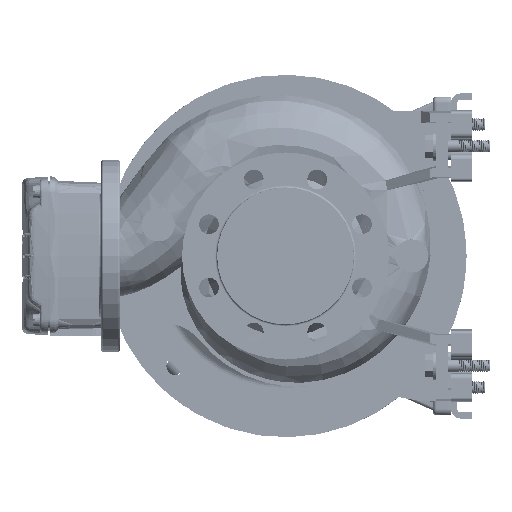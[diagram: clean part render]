
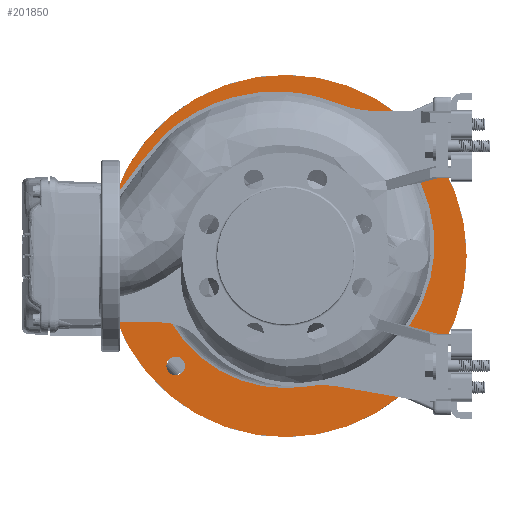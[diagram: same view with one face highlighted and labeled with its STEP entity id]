
A CAD part, left-side view. The second image highlights one B-rep face of the part: STEP entity #201850.
In plain terms, the highlighted planar face has unit normal (-1, 0, 0).
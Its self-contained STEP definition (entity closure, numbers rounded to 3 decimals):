
#360 = FACE_BOUND ( 'NONE', #81783, .T. ) ;
#1497 = DIRECTION ( 'NONE',  ( 1., 0., 0. ) ) ;
#1982 = DIRECTION ( 'NONE',  ( 1., 0., 0. ) ) ;
#5270 = DIRECTION ( 'NONE',  ( 1., 0., 0. ) ) ;
#5308 = EDGE_CURVE ( 'NONE', #168577, #184216, #32273, .T. ) ;
#5826 = CARTESIAN_POINT ( 'NONE',  ( 224., -126.559, -16.664 ) ) ;
#6739 = DIRECTION ( 'NONE',  ( 1., 0., 0. ) ) ;
#9658 = CARTESIAN_POINT ( 'NONE',  ( 224., -106.004, -106.112 ) ) ;
#9678 = DIRECTION ( 'NONE',  ( 0., 0., -1. ) ) ;
#10641 = ORIENTED_EDGE ( 'NONE', *, *, #134990, .F. ) ;
#11541 = CIRCLE ( 'NONE', #36326, 9. ) ;
#15925 = FACE_OUTER_BOUND ( 'NONE', #177177, .T. ) ;
#19377 = EDGE_CURVE ( 'NONE', #112924, #200884, #94918, .T. ) ;
#20458 = CARTESIAN_POINT ( 'NONE',  ( 224., 106.066, -106.112 ) ) ;
#22685 = EDGE_CURVE ( 'NONE', #73342, #47521, #122169, .T. ) ;
#27505 = AXIS2_PLACEMENT_3D ( 'NONE', #113033, #180800, #9678 ) ;
#32273 = CIRCLE ( 'NONE', #149608, 23.5 ) ;
#32629 = DIRECTION ( 'NONE',  ( 0., 0., -1. ) ) ;
#33385 = ORIENTED_EDGE ( 'NONE', *, *, #112318, .T. ) ;
#34346 = DIRECTION ( 'NONE',  ( -1., 0., 0. ) ) ;
#34412 = CIRCLE ( 'NONE', #158736, 127.679 ) ;
#36326 = AXIS2_PLACEMENT_3D ( 'NONE', #53261, #34346, #82176 ) ;
#38147 = CIRCLE ( 'NONE', #27505, 175. ) ;
#38211 = DIRECTION ( 'NONE',  ( 0., 0., 1. ) ) ;
#40480 = EDGE_CURVE ( 'NONE', #150432, #56648, #149326, .T. ) ;
#43439 = EDGE_CURVE ( 'NONE', #172908, #59873, #11541, .T. ) ;
#43555 = VERTEX_POINT ( 'NONE', #138861 ) ;
#47521 = VERTEX_POINT ( 'NONE', #207269 ) ;
#48191 = FACE_BOUND ( 'NONE', #201227, .T. ) ;
#52598 = PLANE ( 'NONE',  #113037 ) ;
#53261 = CARTESIAN_POINT ( 'NONE',  ( 224., -106.004, 106.067 ) ) ;
#53849 = DIRECTION ( 'NONE',  ( -1., 0., 0. ) ) ;
#56648 = VERTEX_POINT ( 'NONE', #137857 ) ;
#59873 = VERTEX_POINT ( 'NONE', #199649 ) ;
#60066 = CIRCLE ( 'NONE', #194907, 9. ) ;
#70608 = CARTESIAN_POINT ( 'NONE',  ( 224., 0.031, -175.022 ) ) ;
#71471 = CARTESIAN_POINT ( 'NONE',  ( 224., 106.066, 106.067 ) ) ;
#73342 = VERTEX_POINT ( 'NONE', #127149 ) ;
#74766 = DIRECTION ( 'NONE',  ( 1., 0., 0. ) ) ;
#75428 = CARTESIAN_POINT ( 'NONE',  ( 224., -106.004, 106.067 ) ) ;
#76996 = CARTESIAN_POINT ( 'NONE',  ( 224., -106.004, -97.112 ) ) ;
#78377 = AXIS2_PLACEMENT_3D ( 'NONE', #114408, #97663, #103164 ) ;
#80321 = DIRECTION ( 'NONE',  ( 0., 0., -1. ) ) ;
#81414 = CARTESIAN_POINT ( 'NONE',  ( 224., 0.031, -0.022 ) ) ;
#81783 = EDGE_LOOP ( 'NONE', ( #131306, #98139 ) ) ;
#82176 = DIRECTION ( 'NONE',  ( 0., 0., -1. ) ) ;
#82421 = ORIENTED_EDGE ( 'NONE', *, *, #22685, .T. ) ;
#83086 = AXIS2_PLACEMENT_3D ( 'NONE', #71471, #74766, #142628 ) ;
#89742 = DIRECTION ( 'NONE',  ( 0., 0., 1. ) ) ;
#89959 = CARTESIAN_POINT ( 'NONE',  ( 224., -126.559, 16.619 ) ) ;
#92318 = CARTESIAN_POINT ( 'NONE',  ( 224., 0.031, -0.022 ) ) ;
#94827 = DIRECTION ( 'NONE',  ( 1., 0., 0. ) ) ;
#94918 = CIRCLE ( 'NONE', #183760, 9. ) ;
#97663 = DIRECTION ( 'NONE',  ( 1., 0., 0. ) ) ;
#98139 = ORIENTED_EDGE ( 'NONE', *, *, #43439, .F. ) ;
#103164 = DIRECTION ( 'NONE',  ( 0., 0., 1. ) ) ;
#105692 = DIRECTION ( 'NONE',  ( 0., 0., 1. ) ) ;
#112318 = EDGE_CURVE ( 'NONE', #184216, #219639, #148060, .T. ) ;
#112642 = DIRECTION ( 'NONE',  ( 1., 0., 0. ) ) ;
#112924 = VERTEX_POINT ( 'NONE', #122602 ) ;
#113033 = CARTESIAN_POINT ( 'NONE',  ( 224., 0.031, -0.022 ) ) ;
#113037 = AXIS2_PLACEMENT_3D ( 'NONE', #150473, #203705, #138197 ) ;
#113162 = DIRECTION ( 'NONE',  ( 0., 0., -1. ) ) ;
#114408 = CARTESIAN_POINT ( 'NONE',  ( 224., -106.004, -106.112 ) ) ;
#114990 = AXIS2_PLACEMENT_3D ( 'NONE', #81414, #94827, #80321 ) ;
#122169 = CIRCLE ( 'NONE', #83086, 9. ) ;
#122405 = DIRECTION ( 'NONE',  ( 1., 0., 0. ) ) ;
#122602 = CARTESIAN_POINT ( 'NONE',  ( 224., 106.066, -115.112 ) ) ;
#123693 = ORIENTED_EDGE ( 'NONE', *, *, #174699, .F. ) ;
#123754 = EDGE_CURVE ( 'NONE', #59873, #172908, #147912, .T. ) ;
#127149 = CARTESIAN_POINT ( 'NONE',  ( 224., 106.066, 115.067 ) ) ;
#131306 = ORIENTED_EDGE ( 'NONE', *, *, #123754, .F. ) ;
#134990 = EDGE_CURVE ( 'NONE', #139610, #178539, #217569, .T. ) ;
#136266 = EDGE_CURVE ( 'NONE', #43555, #168577, #193053, .T. ) ;
#137645 = DIRECTION ( 'NONE',  ( 0., 0., -1. ) ) ;
#137857 = CARTESIAN_POINT ( 'NONE',  ( 224., -106.004, -115.112 ) ) ;
#138197 = DIRECTION ( 'NONE',  ( 0., 0., 1. ) ) ;
#138861 = CARTESIAN_POINT ( 'NONE',  ( 224., 0.031, 127.657 ) ) ;
#139610 = VERTEX_POINT ( 'NONE', #70608 ) ;
#140046 = ORIENTED_EDGE ( 'NONE', *, *, #5308, .T. ) ;
#141685 = EDGE_LOOP ( 'NONE', ( #183315, #146057 ) ) ;
#142628 = DIRECTION ( 'NONE',  ( 0., 0., -1. ) ) ;
#142736 = CARTESIAN_POINT ( 'NONE',  ( 224., 106.066, 106.067 ) ) ;
#146057 = ORIENTED_EDGE ( 'NONE', *, *, #201143, .T. ) ;
#147092 = DIRECTION ( 'NONE',  ( 0., 0., -1. ) ) ;
#147590 = ORIENTED_EDGE ( 'NONE', *, *, #162688, .T. ) ;
#147912 = CIRCLE ( 'NONE', #208273, 9. ) ;
#148060 = CIRCLE ( 'NONE', #218866, 127.679 ) ;
#148947 = EDGE_CURVE ( 'NONE', #219639, #43555, #34412, .T. ) ;
#149326 = CIRCLE ( 'NONE', #78377, 9. ) ;
#149608 = AXIS2_PLACEMENT_3D ( 'NONE', #174609, #122405, #105692 ) ;
#150432 = VERTEX_POINT ( 'NONE', #76996 ) ;
#150473 = CARTESIAN_POINT ( 'NONE',  ( 224., 175.031, -0.022 ) ) ;
#153739 = AXIS2_PLACEMENT_3D ( 'NONE', #92318, #6739, #196748 ) ;
#154300 = CARTESIAN_POINT ( 'NONE',  ( 224., 0.031, -0.022 ) ) ;
#155030 = CARTESIAN_POINT ( 'NONE',  ( 224., 0.031, -127.702 ) ) ;
#158736 = AXIS2_PLACEMENT_3D ( 'NONE', #168290, #1497, #32629 ) ;
#162688 = EDGE_CURVE ( 'NONE', #47521, #73342, #212576, .T. ) ;
#163160 = CARTESIAN_POINT ( 'NONE',  ( 224., -106.004, 115.067 ) ) ;
#168290 = CARTESIAN_POINT ( 'NONE',  ( 224., 0.031, -0.022 ) ) ;
#168577 = VERTEX_POINT ( 'NONE', #89959 ) ;
#170112 = AXIS2_PLACEMENT_3D ( 'NONE', #142736, #112642, #147092 ) ;
#171494 = CARTESIAN_POINT ( 'NONE',  ( 224., 106.066, -97.112 ) ) ;
#172908 = VERTEX_POINT ( 'NONE', #163160 ) ;
#173812 = DIRECTION ( 'NONE',  ( -1., 0., 0. ) ) ;
#174609 = CARTESIAN_POINT ( 'NONE',  ( 224., -109.967, -0.022 ) ) ;
#174699 = EDGE_CURVE ( 'NONE', #200884, #112924, #60066, .T. ) ;
#177177 = EDGE_LOOP ( 'NONE', ( #10641, #191538 ) ) ;
#177189 = ORIENTED_EDGE ( 'NONE', *, *, #136266, .T. ) ;
#178539 = VERTEX_POINT ( 'NONE', #196052 ) ;
#180800 = DIRECTION ( 'NONE',  ( 1., 0., 0. ) ) ;
#183315 = ORIENTED_EDGE ( 'NONE', *, *, #40480, .T. ) ;
#183760 = AXIS2_PLACEMENT_3D ( 'NONE', #20458, #53849, #207135 ) ;
#183787 = FACE_BOUND ( 'NONE', #209302, .T. ) ;
#184216 = VERTEX_POINT ( 'NONE', #5826 ) ;
#188150 = FACE_BOUND ( 'NONE', #141685, .T. ) ;
#190455 = CARTESIAN_POINT ( 'NONE',  ( 224., 106.066, -106.112 ) ) ;
#191538 = ORIENTED_EDGE ( 'NONE', *, *, #198416, .F. ) ;
#193053 = CIRCLE ( 'NONE', #114990, 127.679 ) ;
#193238 = DIRECTION ( 'NONE',  ( -1., 0., 0. ) ) ;
#194569 = CIRCLE ( 'NONE', #201676, 9. ) ;
#194907 = AXIS2_PLACEMENT_3D ( 'NONE', #190455, #173812, #38211 ) ;
#196052 = CARTESIAN_POINT ( 'NONE',  ( 224., 0.031, 174.978 ) ) ;
#196748 = DIRECTION ( 'NONE',  ( 0., 0., -1. ) ) ;
#198416 = EDGE_CURVE ( 'NONE', #178539, #139610, #38147, .T. ) ;
#199649 = CARTESIAN_POINT ( 'NONE',  ( 224., -106.004, 97.067 ) ) ;
#200884 = VERTEX_POINT ( 'NONE', #171494 ) ;
#201143 = EDGE_CURVE ( 'NONE', #56648, #150432, #194569, .T. ) ;
#201227 = EDGE_LOOP ( 'NONE', ( #33385, #205442, #177189, #140046 ) ) ;
#201676 = AXIS2_PLACEMENT_3D ( 'NONE', #9658, #5270, #89742 ) ;
#201850 = ADVANCED_FACE ( 'NONE', ( #183787, #360, #15925, #204805, #188150, #48191 ), #52598, .T. ) ;
#203705 = DIRECTION ( 'NONE',  ( -1., 0., 0. ) ) ;
#204805 = FACE_BOUND ( 'NONE', #211314, .T. ) ;
#205442 = ORIENTED_EDGE ( 'NONE', *, *, #148947, .T. ) ;
#207135 = DIRECTION ( 'NONE',  ( 0., 0., 1. ) ) ;
#207269 = CARTESIAN_POINT ( 'NONE',  ( 224., 106.066, 97.067 ) ) ;
#208273 = AXIS2_PLACEMENT_3D ( 'NONE', #75428, #193238, #113162 ) ;
#209302 = EDGE_LOOP ( 'NONE', ( #147590, #82421 ) ) ;
#210859 = ORIENTED_EDGE ( 'NONE', *, *, #19377, .F. ) ;
#211314 = EDGE_LOOP ( 'NONE', ( #123693, #210859 ) ) ;
#212576 = CIRCLE ( 'NONE', #170112, 9. ) ;
#217569 = CIRCLE ( 'NONE', #153739, 175. ) ;
#218866 = AXIS2_PLACEMENT_3D ( 'NONE', #154300, #1982, #137645 ) ;
#219639 = VERTEX_POINT ( 'NONE', #155030 ) ;
